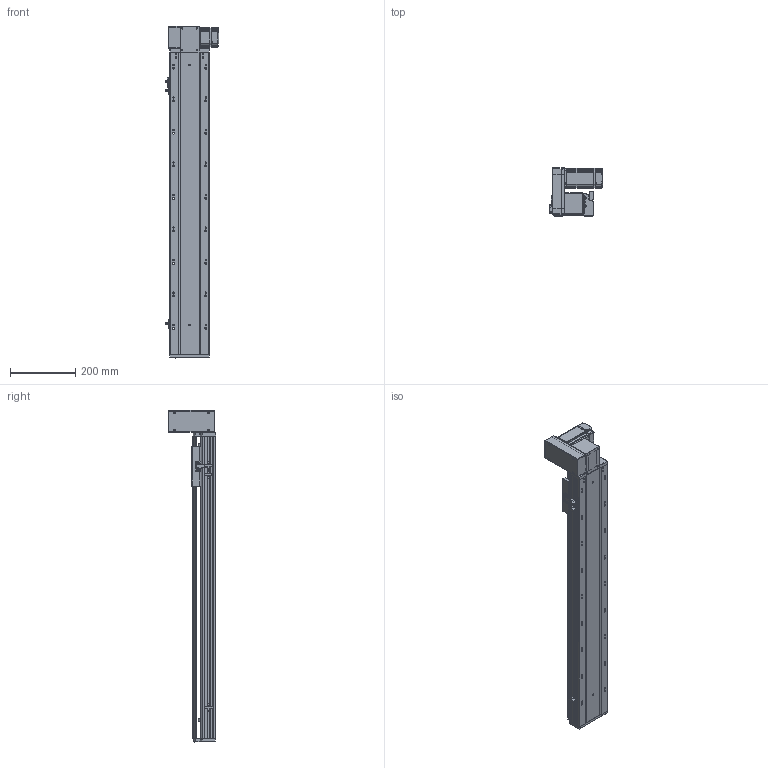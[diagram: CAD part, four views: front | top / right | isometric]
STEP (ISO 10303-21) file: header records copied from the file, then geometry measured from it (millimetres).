
FILE_DESCRIPTION (( 'STEP AP203' ), '1' );
FILE_NAME ('RY120-T-300-UL.SLDASM_700.step', '2021-03-01T05:35:42', ( '盈信电脑' ), ( '东莞市道滘镇水果街19号' ), 'SwSTEP 2.0', 'SolidWorks 2012', '' );
FILE_SCHEMA (( 'CONFIG_CONTROL_DESIGN' ));
Length unit declared in the file: millimetre
Products named in the file (18): RY120-T-300-UL.SLDASM_700; RY120-T翋肮祭謫裔啣; RY120-T蹟翐M4; 侂狟400W侜督萇儂; 滅袉蝶18-10; RY120-T萇儂欶; RY120-T主同步轮轴承压盖; RY120-T翋肮祭盓傅釱; RY120-T萇儂假蚾啣; 15; RY120-T肮祭湍揤踡輸2; RY120-T肮祭湍揤踡輸1; RY120外置感应片(140共用）; 覜茼ん672; RY120-T-300-UL倰第菁釱_700; RY120綴裔啣; RY120-T-300-UL倰第奻裔啣_700; RY120肮祭湍臏賑輸
Assembly tree (23 placements, depth 3):
  RY120-T-300-UL.SLDASM_700
    RY120-T-300-UL倰第菁釱_700
    RY120-T-300-UL倰第奻裔啣_700
    RY120肮祭湍臏賑輸
    RY120綴裔啣
    覜茼ん672  x3
    RY120外置感应片(140共用）
    RY120-T肮祭湍揤踡輸1
    RY120-T肮祭湍揤踡輸2
    RY120-T翋肮祭盓傅釱
    RY120-T萇儂假蚾啣
    侂狟400W侜督萇儂
      15
    RY120-T主同步轮轴承压盖
    滅袉蝶18-10  x2
    RY120-T萇儂欶
    RY120-T蹟翐M4  x4
    RY120-T翋肮祭謫裔啣
Bounding box: 164.2 x 146 x 1021 mm (x, y, z)
Volume: 2955303.6 mm3; surface area: 1091516.3 mm2
Topology: 23 solids, 23 shells, 2856 faces, 7824 edges, 5036 vertices
Faces by surface type: plane 1432, cylinder 1102, cone 233, bspline 89
Entity records: 92086 total; most frequent: CARTESIAN_POINT 23972, ORIENTED_EDGE 14112, DIRECTION 13210, EDGE_CURVE 7056, VERTEX_POINT 4623, AXIS2_PLACEMENT_3D 4425, VECTOR 4360, LINE 4360
